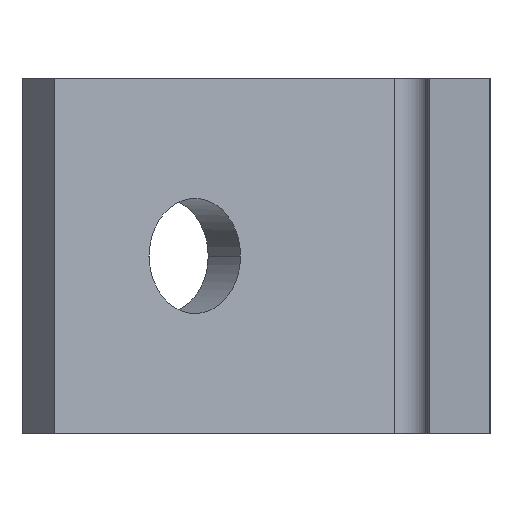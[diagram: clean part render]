
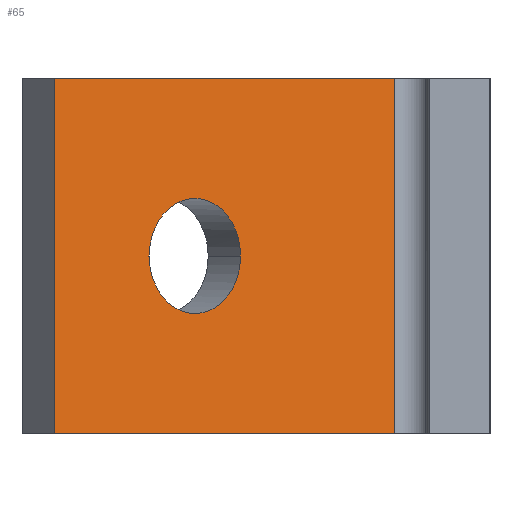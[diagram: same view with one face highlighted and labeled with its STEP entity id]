
A CAD part, left-side view. The second image highlights one B-rep face of the part: STEP entity #65.
In plain terms, the highlighted planar face has unit normal (-0.793, -0.609, 0).
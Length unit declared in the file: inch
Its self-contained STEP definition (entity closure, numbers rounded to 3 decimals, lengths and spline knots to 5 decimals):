
#65=ADVANCED_FACE('',(#134,#135),#136,.T.);
#134=FACE_BOUND('',#289,.T.);
#135=FACE_OUTER_BOUND('',#290,.T.);
#136=PLANE('',#291);
#289=EDGE_LOOP('',(#428,#429,#430,#431));
#290=EDGE_LOOP('',(#432,#433,#434,#435));
#291=AXIS2_PLACEMENT_3D('',#436,#437,#438);
#428=ORIENTED_EDGE('',*,*,#561,.T.);
#429=ORIENTED_EDGE('',*,*,#517,.T.);
#430=ORIENTED_EDGE('',*,*,#562,.T.);
#431=ORIENTED_EDGE('',*,*,#545,.T.);
#432=ORIENTED_EDGE('',*,*,#563,.T.);
#433=ORIENTED_EDGE('',*,*,#564,.F.);
#434=ORIENTED_EDGE('',*,*,#530,.T.);
#435=ORIENTED_EDGE('',*,*,#565,.T.);
#436=CARTESIAN_POINT('',(1.67463,0.93635,0.0));
#437=DIRECTION('',(-0.793,-0.609,0.0));
#438=DIRECTION('',(0.609,-0.793,0.0));
#517=EDGE_CURVE('',#596,#597,#598,.T.);
#530=EDGE_CURVE('',#621,#619,#622,.T.);
#545=EDGE_CURVE('',#644,#645,#646,.T.);
#561=EDGE_CURVE('',#645,#596,#668,.T.);
#562=EDGE_CURVE('',#597,#644,#669,.T.);
#563=EDGE_CURVE('',#670,#671,#672,.T.);
#564=EDGE_CURVE('',#621,#671,#673,.T.);
#565=EDGE_CURVE('',#619,#670,#674,.T.);
#596=VERTEX_POINT('',#731);
#597=VERTEX_POINT('',#732);
#598=B_SPLINE_CURVE_WITH_KNOTS('',3,(#733,#734,#735,#736),.UNSPECIFIED.,.F.,.F.,(4,4),(-1.0,-0.0),.UNSPECIFIED.);
#619=VERTEX_POINT('',#765);
#621=VERTEX_POINT('',#770);
#622=LINE('',#771,#772);
#644=VERTEX_POINT('',#806);
#645=VERTEX_POINT('',#807);
#646=B_SPLINE_CURVE_WITH_KNOTS('',3,(#808,#809,#810,#811),.UNSPECIFIED.,.F.,.F.,(4,4),(-1.0,-0.0),.UNSPECIFIED.);
#668=B_SPLINE_CURVE_WITH_KNOTS('',3,(#896,#897,#898,#899),.UNSPECIFIED.,.F.,.F.,(4,4),(-1.0,-0.0),.UNSPECIFIED.);
#669=B_SPLINE_CURVE_WITH_KNOTS('',3,(#900,#901,#902,#903),.UNSPECIFIED.,.F.,.F.,(4,4),(-1.0,-0.0),.UNSPECIFIED.);
#670=VERTEX_POINT('',#904);
#671=VERTEX_POINT('',#905);
#672=LINE('',#906,#907);
#673=LINE('',#908,#909);
#674=LINE('',#910,#911);
#731=CARTESIAN_POINT('',(1.71762,0.88033,0.625));
#732=CARTESIAN_POINT('',(1.59396,1.04148,0.42188));
#733=CARTESIAN_POINT('',(1.71762,0.88033,0.625));
#734=CARTESIAN_POINT('',(1.71762,0.88033,0.51282));
#735=CARTESIAN_POINT('',(1.66226,0.95248,0.42188));
#736=CARTESIAN_POINT('',(1.59396,1.04148,0.42188));
#765=CARTESIAN_POINT('',(2.13577,0.33538,0.0));
#770=CARTESIAN_POINT('',(1.21349,1.53732,0.0));
#771=CARTESIAN_POINT('',(1.21349,1.53732,0.0));
#772=VECTOR('',#978,1.);
#806=CARTESIAN_POINT('',(1.47031,1.20263,0.625));
#807=CARTESIAN_POINT('',(1.59396,1.04148,0.82813));
#808=CARTESIAN_POINT('',(1.47031,1.20263,0.625));
#809=CARTESIAN_POINT('',(1.47031,1.20263,0.73718));
#810=CARTESIAN_POINT('',(1.52567,1.13048,0.82813));
#811=CARTESIAN_POINT('',(1.59396,1.04148,0.82813));
#896=CARTESIAN_POINT('',(1.59396,1.04148,0.82813));
#897=CARTESIAN_POINT('',(1.66226,0.95248,0.82813));
#898=CARTESIAN_POINT('',(1.71762,0.88033,0.73718));
#899=CARTESIAN_POINT('',(1.71762,0.88033,0.625));
#900=CARTESIAN_POINT('',(1.59396,1.04148,0.42188));
#901=CARTESIAN_POINT('',(1.52567,1.13048,0.42188));
#902=CARTESIAN_POINT('',(1.47031,1.20263,0.51282));
#903=CARTESIAN_POINT('',(1.47031,1.20263,0.625));
#904=CARTESIAN_POINT('',(2.13577,0.33538,1.25));
#905=CARTESIAN_POINT('',(1.21349,1.53732,1.25));
#906=CARTESIAN_POINT('',(1.21349,1.53732,1.25));
#907=VECTOR('',#996,1.);
#908=CARTESIAN_POINT('',(1.21349,1.53732,0.0));
#909=VECTOR('',#997,1.0);
#910=CARTESIAN_POINT('',(2.13577,0.33538,0.0));
#911=VECTOR('',#998,1.0);
#978=DIRECTION('',(0.609,-0.793,0.0));
#996=DIRECTION('',(-0.609,0.793,0.0));
#997=DIRECTION('',(0.0,0.0,1.0));
#998=DIRECTION('',(0.0,0.0,1.0));
